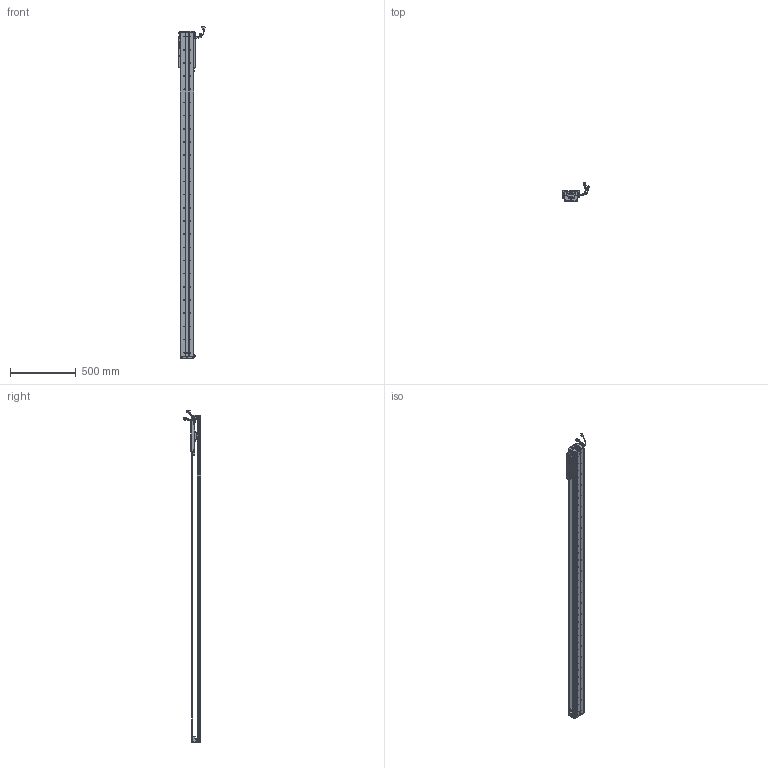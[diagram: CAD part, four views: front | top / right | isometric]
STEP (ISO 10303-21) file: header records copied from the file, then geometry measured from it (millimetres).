
FILE_DESCRIPTION (( 'STEP AP203' ), '1' );
FILE_NAME ('Z3-RY100D-1-L500-B-K.SLDASM_2150.step', '2021-05-17T02:51:53', ( '盈信电脑' ), ( '东莞市道滘镇水果街19号' ), 'SwSTEP 2.0', 'SolidWorks 2016', '' );
FILE_SCHEMA (( 'CONFIG_CONTROL_DESIGN' ));
Length unit declared in the file: millimetre
Products named in the file (36): SCREW-M1.6; SCREW-M1.6-2; 榋妏寠巭燃_暯_M2_2; Z3-RY100D-1-L500-B-K.SLDASM_2150; Z-RY100D詩湍奻揤裔; SCREW-M1.7; Z3-RY100D-500-倰第菁釱_2150; PBU_SHEET; LABEL-Part-1; SEAL-Part-1; Z-100詩湍傷裔啣; Z-RY100D詩湍狟揤裔; 080黍杅芛假蚾釱21遴; SHIELDPLATE; SCREW-M1.6-1; HARNESS-Part-1; SCALE-Part-2; LABEL; HARNESS-Part-2; 140雄赽晤鎢ん堤盄; Z3-RY100-L500詩湍90mm遵_2150; Z-RY100D覜茼んえ; HOLDER0; SCALE-Part-1; SEAL; 100-Z-臏賑輸盄裔(21遴); HARNESS; Z3-RY100铝滑块（21款）; 覜茼ん672; SCREW-M1.7-1; 140蚥薯蝶輸; PSLH080_PSLF2; COVER-Part-1; SCALE; SCREW-M1.6-3; COVER
Assembly tree (43 placements, depth 4):
  Z3-RY100D-1-L500-B-K.SLDASM_2150
    Z3-RY100D-500-倰第菁釱_2150
    Z3-RY100铝滑块（21款）
    PSLH080_PSLF2
      SCALE
        SCALE-Part-1
        SCALE-Part-2
      HARNESS
        HARNESS-Part-1
        HARNESS-Part-2
      LABEL
        LABEL-Part-1
      COVER
        COVER-Part-1
      SEAL
        SEAL-Part-1
      榋妏寠巭燃_暯_M2_2
      SHIELDPLATE
      SCREW-M1.7
      SCREW-M1.7-1
      PBU_SHEET
      SCREW-M1.6
      SCREW-M1.6-1
      SCREW-M1.6-2
      SCREW-M1.6-3
      HOLDER0
    080黍杅芛假蚾釱21遴
    Z-100詩湍傷裔啣  x2
    140蚥薯蝶輸  x2
    覜茼ん672  x3
    Z-RY100D覜茼んえ  x3
    100-Z-臏賑輸盄裔(21遴)
    140雄赽晤鎢ん堤盄
    Z3-RY100-L500詩湍90mm遵_2150
    Z-RY100D詩湍狟揤裔  x2
    Z-RY100D詩湍奻揤裔  x2
Bounding box: 205.84 x 136.11 x 2520.43 mm (x, y, z)
Volume: 4655515.2 mm3; surface area: 1829979 mm2
Topology: 38 solids, 38 shells, 2969 faces, 8071 edges, 5148 vertices
Faces by surface type: cylinder 1442, plane 1179, cone 226, torus 69, bspline 53
Entity records: 85457 total; most frequent: CARTESIAN_POINT 17905, DIRECTION 13761, ORIENTED_EDGE 13022, EDGE_CURVE 6511, AXIS2_PLACEMENT_3D 5164, VERTEX_POINT 4216, VECTOR 3433, LINE 3433
